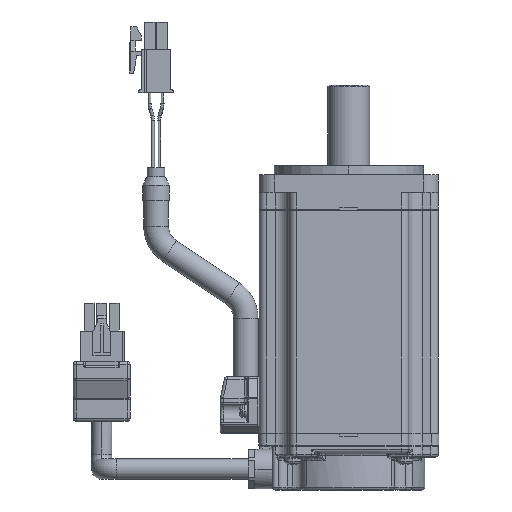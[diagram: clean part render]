
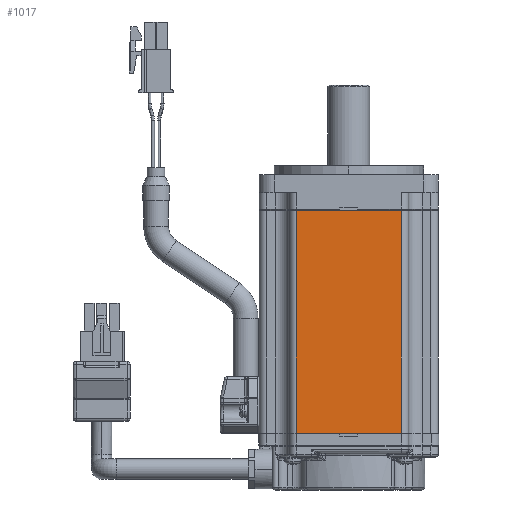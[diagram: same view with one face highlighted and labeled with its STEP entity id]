
A CAD part, left-side view. The second image highlights one B-rep face of the part: STEP entity #1017.
In plain terms, the highlighted planar face has unit normal (-1, 0, 0) as drawn and (1, 0, 0) by its records, which use the part's own axes.
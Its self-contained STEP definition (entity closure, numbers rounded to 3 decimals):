
#86=DIRECTION('',(0.,1.,0.));
#87=VECTOR('',#86,35.);
#88=CARTESIAN_POINT('',(30.,-17.5,0.));
#89=LINE('',#88,#87);
#153=DIRECTION('',(0.,1.,0.));
#154=VECTOR('',#153,35.);
#155=CARTESIAN_POINT('',(30.,-17.5,74.5));
#156=LINE('',#155,#154);
#286=DIRECTION('',(0.,0.,1.));
#287=VECTOR('',#286,74.5);
#288=CARTESIAN_POINT('',(30.,17.5,0.));
#289=LINE('',#288,#287);
#290=DIRECTION('',(0.,0.,-1.));
#291=VECTOR('',#290,74.5);
#292=CARTESIAN_POINT('',(30.,-17.5,74.5));
#293=LINE('',#292,#291);
#658=CARTESIAN_POINT('',(30.,17.5,0.));
#659=VERTEX_POINT('',#658);
#660=CARTESIAN_POINT('',(30.,17.5,74.5));
#661=VERTEX_POINT('',#660);
#714=CARTESIAN_POINT('',(30.,-17.5,74.5));
#715=VERTEX_POINT('',#714);
#716=CARTESIAN_POINT('',(30.,-17.5,0.));
#717=VERTEX_POINT('',#716);
#1005=CARTESIAN_POINT('',(30.,-30.,0.));
#1006=DIRECTION('',(1.,0.,0.));
#1007=DIRECTION('',(0.,1.,0.));
#1008=AXIS2_PLACEMENT_3D('',#1005,#1006,#1007);
#1009=PLANE('',#1008);
#1010=ORIENTED_EDGE('',*,*,#900,.F.);
#1011=ORIENTED_EDGE('',*,*,#857,.F.);
#1013=ORIENTED_EDGE('',*,*,#1012,.F.);
#1014=ORIENTED_EDGE('',*,*,#927,.T.);
#1015=EDGE_LOOP('',(#1010,#1011,#1013,#1014));
#1016=FACE_OUTER_BOUND('',#1015,.F.);
#1017=ADVANCED_FACE('',(#1016),#1009,.T.);
#857=EDGE_CURVE('',#717,#659,#89,.T.);
#900=EDGE_CURVE('',#659,#661,#289,.T.);
#927=EDGE_CURVE('',#715,#661,#156,.T.);
#1012=EDGE_CURVE('',#715,#717,#293,.T.);
